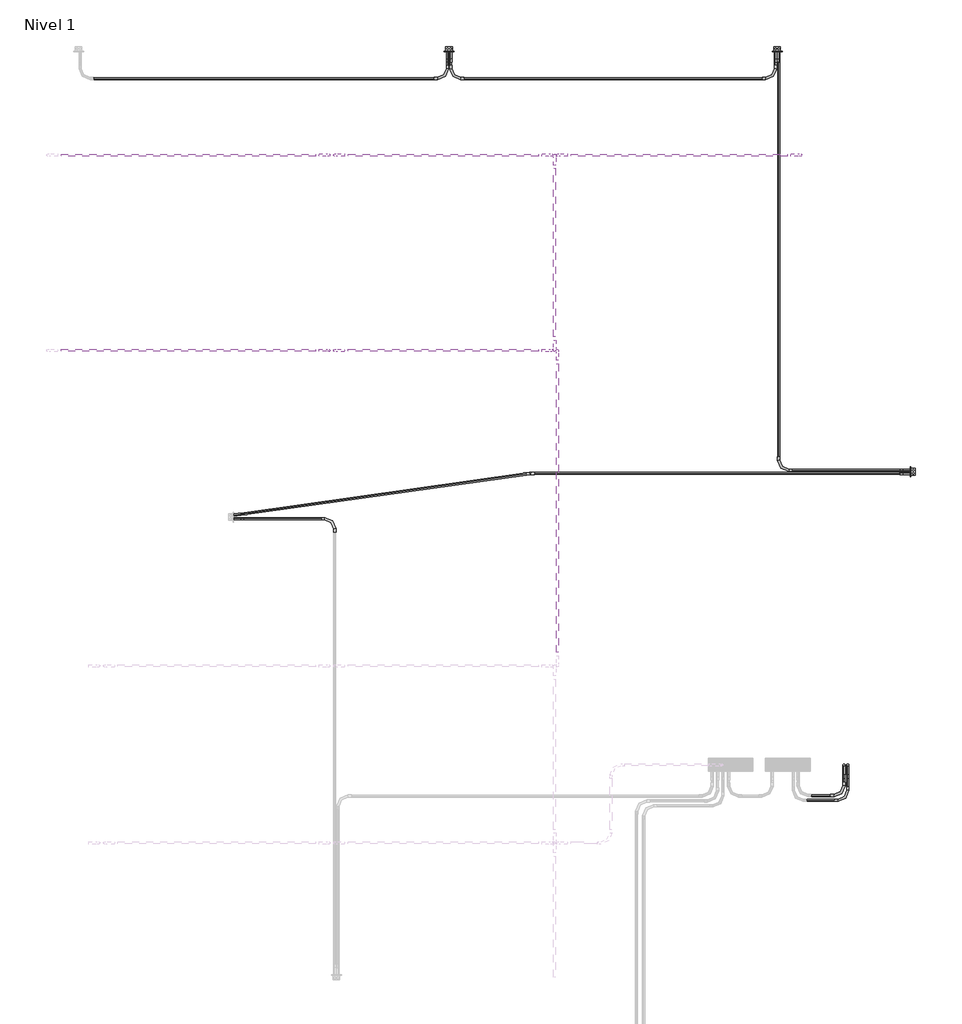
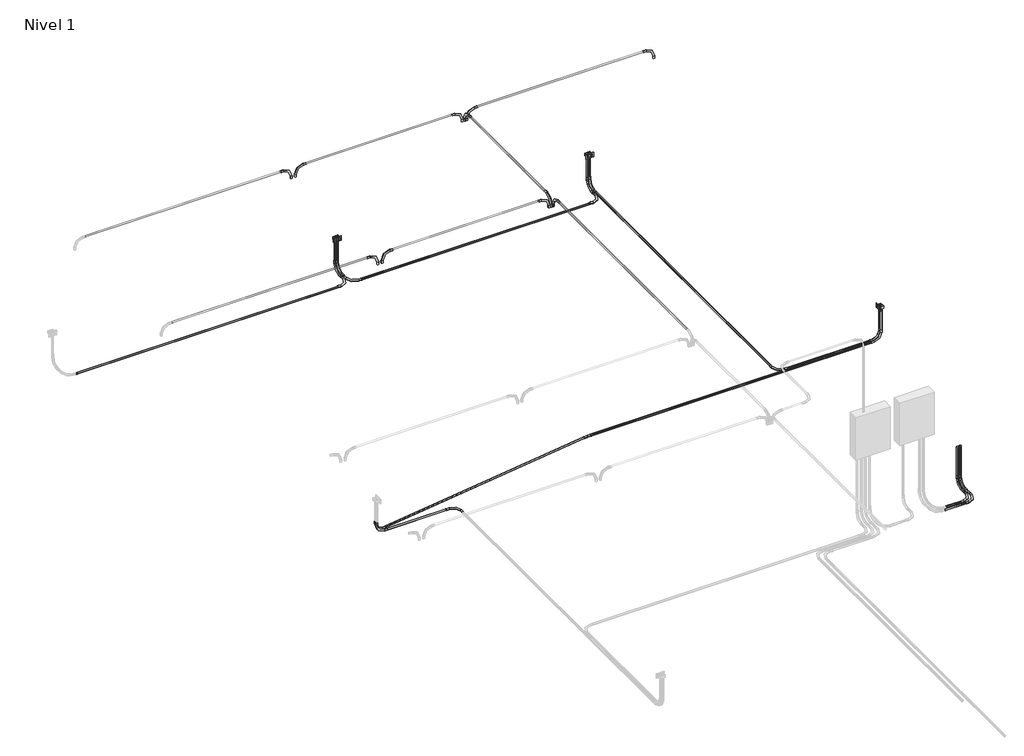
# One storey, part 4 of 4: 29 cable carrier fittings, 29 cable carrier segments, 3 proxies.
"""IFC4 building model written with IfcOpenShell, lengths in millimetres."""

from ifc_helpers import new_model, si_unit, point, frame, frame_2d, origin, place, context, project, spatial, circle_curve, trimmed, segment, composite_curve, outline, extrude, transform, mapped, element, save
from components import gfci_180f1b41, m_codo_de_tubo_extremo_liso_pvc_9da73e12, m_codo_de_tubo_extremo_liso_pvc_3057f877, m_codo_de_tubo_extremo_liso_pvc_102f0f41

model = new_model("IFC4")

# Units and contexts
model_context = context("Model", 3, world=origin())
ifc_project = project(units=[si_unit("LENGTHUNIT", "METRE", prefix="MILLI")], contexts=[model_context])

# Site, building, storey
site = spatial("IfcSite", under=ifc_project)
building = spatial("IfcBuilding", under=site)
storey = spatial("IfcBuildingStorey", under=building, Name="Nivel 1", Elevation=0.0)

# Proxies
placement = place(None, origin())
gfci_shape = gfci_180f1b41(model_context)
element("IfcBuildingElementProxy", 1, Name="Tomacorriente doble 220V : GFCI", ObjectType="Tomacorriente doble 220V : GFCI", at=placement, inside=storey, context=model_context, shape_type="MappedRepresentation", body=[
    mapped(gfci_shape, transform((3917.8396222, 17515.0, 400.0), x_axis=(0.0, 0.0, 1.0), y_axis=(-1.0, 0.0, 0.0), z_axis=(0.0, -1.0, 0.0))),
])
element("IfcBuildingElementProxy", 2, Name="Tomacorriente doble 220V : GFCI", ObjectType="Tomacorriente doble 220V : GFCI", at=placement, inside=storey, context=model_context, shape_type="MappedRepresentation", body=[
    mapped(gfci_shape, transform((7647.8998318, 17515.0, 400.0), x_axis=(0.0, 0.0, 1.0), y_axis=(-1.0, 0.0, 0.0), z_axis=(0.0, -1.0, 0.0))),
])
element("IfcBuildingElementProxy", 3, Name="Tomacorriente doble 220V : GFCI", ObjectType="Tomacorriente doble 220V : GFCI", at=placement, inside=storey, context=model_context, shape_type="MappedRepresentation", body=[
    mapped(gfci_shape, transform((9165.0, 12735.9281634, 400.0), x_axis=(0.0, 0.0, 1.0), y_axis=(0.0, 1.0, 0.0), z_axis=(-1.0, 0.0, 0.0))),
])

# Cable carrier fittings
m_codo_de_tubo_extremo_liso_pvc_shape = m_codo_de_tubo_extremo_liso_pvc_9da73e12(model_context)
element("IfcCableCarrierFitting", 4, ObjectType="M_Codo de tubo - Extremo liso - PVC : CODO POTENCIA", at=placement, inside=storey, context=model_context, shape_type="MappedRepresentation", body=[
    mapped(m_codo_de_tubo_extremo_liso_pvc_shape, transform((3935.8714421, 17544.6371118, -99.99), x_axis=(0.0, 0.0, -1.0), y_axis=(0.0, -1.0, 0.0), z_axis=(-1.0, 0.0, 0.0))),
])
element("IfcCableCarrierFitting", 5, ObjectType="M_Codo de tubo - Extremo liso - PVC : CODO POTENCIA", at=placement, inside=storey, context=model_context, shape_type="MappedRepresentation", body=[
    mapped(m_codo_de_tubo_extremo_liso_pvc_shape, transform((3899.8078024, 17544.6371118, -99.99), x_axis=(0.0, 0.0, -1.0), y_axis=(0.0, -1.0, 0.0), z_axis=(-1.0, 0.0, 0.0))),
])
element("IfcCableCarrierFitting", 6, ObjectType="M_Codo de tubo - Extremo liso - PVC : CODO POTENCIA", at=placement, inside=storey, context=model_context, shape_type="MappedRepresentation", body=[
    mapped(m_codo_de_tubo_extremo_liso_pvc_shape, transform((7629.8680119, 17544.6371118, -99.99), x_axis=(0.0, 0.0, -1.0), y_axis=(0.0, -1.0, 0.0), z_axis=(-1.0, 0.0, 0.0))),
])
element("IfcCableCarrierFitting", 7, ObjectType="M_Codo de tubo - Extremo liso - PVC : CODO POTENCIA", at=placement, inside=storey, context=model_context, shape_type="MappedRepresentation", body=[
    mapped(m_codo_de_tubo_extremo_liso_pvc_shape, transform((3899.8078024, 17204.6371118, -99.99), x_axis=(1.0, 0.0, 0.0), y_axis=(0.0, 1.0, 0.0), z_axis=(0.0, 0.0, 1.0))),
])
element("IfcCableCarrierFitting", 8, ObjectType="M_Codo de tubo - Extremo liso - PVC : CODO POTENCIA", at=placement, inside=storey, context=model_context, shape_type="MappedRepresentation", body=[
    mapped(m_codo_de_tubo_extremo_liso_pvc_shape, transform((7629.8680119, 17204.6371118, -99.99), x_axis=(1.0, 0.0, 0.0), y_axis=(0.0, 1.0, 0.0), z_axis=(0.0, 0.0, 1.0))),
])
element("IfcCableCarrierFitting", 9, ObjectType="M_Codo de tubo - Extremo liso - PVC : CODO POTENCIA", at=placement, inside=storey, context=model_context, shape_type="MappedRepresentation", body=[
    mapped(m_codo_de_tubo_extremo_liso_pvc_shape, transform((3935.8714421, 17204.6371118, -99.99), x_axis=(0.0, -1.0, 0.0), y_axis=(1.0, 0.0, 0.0), z_axis=(0.0, 0.0, 1.0))),
])
element("IfcCableCarrierFitting", 10, ObjectType="M_Codo de tubo - Extremo liso - PVC : CODO POTENCIA", at=placement, inside=storey, context=model_context, shape_type="MappedRepresentation", body=[
    mapped(m_codo_de_tubo_extremo_liso_pvc_shape, transform((9194.6371118, 12753.9599833, -99.99), x_axis=(0.0, 0.0, -1.0), y_axis=(-1.0, 0.0, 0.0), z_axis=(0.0, 1.0, 0.0))),
])
element("IfcCableCarrierFitting", 11, ObjectType="M_Codo de tubo - Extremo liso - PVC : CODO POTENCIA", at=placement, inside=storey, context=model_context, shape_type="MappedRepresentation", body=[
    mapped(m_codo_de_tubo_extremo_liso_pvc_shape, transform((9194.6371118, 12717.8963436, -99.99), x_axis=(0.0, 0.0, -1.0), y_axis=(-1.0, 0.0, 0.0), z_axis=(0.0, 1.0, 0.0))),
])
element("IfcCableCarrierFitting", 12, ObjectType="M_Codo de tubo - Extremo liso - PVC : CODO POTENCIA", at=placement, inside=storey, context=model_context, shape_type="MappedRepresentation", body=[
    mapped(m_codo_de_tubo_extremo_liso_pvc_shape, transform((7665.9316516, 12753.9599833, -99.99), x_axis=(0.0, -1.0, 0.0), y_axis=(1.0, 0.0, 0.0), z_axis=(0.0, 0.0, 1.0))),
])
element("IfcCableCarrierFitting", 13, ObjectType="M_Codo de tubo - Extremo liso - PVC : CODO POTENCIA", at=placement, inside=storey, context=model_context, shape_type="MappedRepresentation", body=[
    mapped(m_codo_de_tubo_extremo_liso_pvc_shape, transform((7665.9316516, 17544.6371118, -99.99), x_axis=(0.0, 0.0, -1.0), y_axis=(0.0, -1.0, 0.0), z_axis=(-1.0, 0.0, 0.0))),
])
element("IfcCableCarrierFitting", 14, ObjectType="M_Codo de tubo - Extremo liso - PVC : CODO POTENCIA", at=placement, inside=storey, context=model_context, shape_type="MappedRepresentation", body=[
    mapped(m_codo_de_tubo_extremo_liso_pvc_shape, transform((1435.3628882, 12202.9611145, -99.99), x_axis=(0.0, 0.0, -1.0), y_axis=(1.0, 0.0, 0.0), z_axis=(0.0, -1.0, 0.0))),
])
element("IfcCableCarrierFitting", 15, ObjectType="M_Codo de tubo - Extremo liso - PVC : CODO POTENCIA", at=placement, inside=storey, context=model_context, shape_type="MappedRepresentation", body=[
    mapped(m_codo_de_tubo_extremo_liso_pvc_shape, transform((2617.9544069, 12202.9611145, -99.99), x_axis=(0.0, 1.0, 0.0), y_axis=(-1.0, 0.0, 0.0), z_axis=(0.0, 0.0, 1.0))),
])
element("IfcCableCarrierFitting", 16, ObjectType="M_Codo de tubo - Extremo liso - PVC : CODO POTENCIA", at=placement, inside=storey, context=model_context, shape_type="MappedRepresentation", body=[
    mapped(m_codo_de_tubo_extremo_liso_pvc_shape, transform((1435.3628882, 12239.0247541, -99.99), x_axis=(0.0, 0.0, -1.0), y_axis=(0.9902680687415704, 0.13917310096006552, 0.0), z_axis=(0.13917310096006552, -0.9902680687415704, 0.0))),
])
element("IfcCableCarrierFitting", 17, ObjectType="M_Codo de tubo - Extremo liso - PVC : CODO POTENCIA", at=placement, inside=storey, context=model_context, shape_type="MappedRepresentation", body=[
    mapped(m_codo_de_tubo_extremo_liso_pvc_shape, transform((8406.8510983, 9055.836249, -99.99), x_axis=(1.0, 0.0, 0.0), y_axis=(0.0, 1.0, 0.0), z_axis=(0.0, 0.0, 1.0))),
])
element("IfcCableCarrierFitting", 18, ObjectType="M_Codo de tubo - Extremo liso - PVC : CODO POTENCIA", at=placement, inside=storey, context=model_context, shape_type="MappedRepresentation", body=[
    mapped(m_codo_de_tubo_extremo_liso_pvc_shape, transform((8406.8510983, 9405.836249, -99.99), x_axis=(0.0, 1.0, 0.0), y_axis=(0.0, 0.0, 1.0), z_axis=(1.0, 0.0, 0.0))),
])
element("IfcCableCarrierFitting", 19, ObjectType="M_Codo de tubo - Extremo liso - PVC : CODO POTENCIA", at=placement, inside=storey, context=model_context, shape_type="MappedRepresentation", body=[
    mapped(m_codo_de_tubo_extremo_liso_pvc_shape, transform((8451.8510983, 9003.336249, -99.99), x_axis=(1.0, 0.0, 0.0), y_axis=(0.0, 1.0, 0.0), z_axis=(0.0, 0.0, 1.0))),
])
element("IfcCableCarrierFitting", 20, ObjectType="M_Codo de tubo - Extremo liso - PVC : CODO POTENCIA", at=placement, inside=storey, context=model_context, shape_type="MappedRepresentation", body=[
    mapped(m_codo_de_tubo_extremo_liso_pvc_shape, transform((8451.8510983, 9405.836249, -99.99), x_axis=(0.0, 1.0, 0.0), y_axis=(0.0, 0.0, 1.0), z_axis=(1.0, 0.0, 0.0))),
])
m_codo_de_tubo_extremo_liso_pvc_2_shape = m_codo_de_tubo_extremo_liso_pvc_3057f877(model_context)
element("IfcCableCarrierFitting", 21, ObjectType="M_Codo de tubo - Extremo liso - PVC : CODO POTENCIA", at=placement, inside=storey, context=model_context, shape_type="MappedRepresentation", body=[
    mapped(m_codo_de_tubo_extremo_liso_pvc_2_shape, transform((4842.7112972, 12717.8963436, -99.99), x_axis=(-1.0, 0.0, 0.0), y_axis=(0.0, -1.0, 0.0), z_axis=(0.0, 0.0, 1.0))),
])
element("IfcCableCarrierFitting", 22, ObjectType="M_Codo de tubo - Extremo liso - PVC : CODO ILUMINACION", at=placement, inside=storey, context=model_context, shape_type="MappedRepresentation", body=[
    mapped(m_codo_de_tubo_extremo_liso_pvc_shape, transform((2616.5510631, 16335.5818559, 2700.0), x_axis=(0.0, 0.0, 1.0), y_axis=(1.0, 0.0, 0.0), z_axis=(0.0, 1.0, 0.0))),
])
element("IfcCableCarrierFitting", 23, ObjectType="M_Codo de tubo - Extremo liso - PVC : CODO ILUMINACION", at=placement, inside=storey, context=model_context, shape_type="MappedRepresentation", body=[
    mapped(m_codo_de_tubo_extremo_liso_pvc_shape, transform((5149.9573804, 16335.5818559, 2700.0), x_axis=(0.0, 0.0, 1.0), y_axis=(1.0, 0.0, 0.0), z_axis=(0.0, 1.0, 0.0))),
])
element("IfcCableCarrierFitting", 24, ObjectType="M_Codo de tubo - Extremo liso - PVC : CODO ILUMINACION", at=placement, inside=storey, context=model_context, shape_type="MappedRepresentation", body=[
    mapped(m_codo_de_tubo_extremo_liso_pvc_shape, transform((2616.5510631, 14115.9664101, 2700.0), x_axis=(0.0, 0.0, 1.0), y_axis=(1.0, 0.0, 0.0), z_axis=(0.0, 1.0, 0.0))),
])
element("IfcCableCarrierFitting", 25, ObjectType="M_Codo de tubo - Extremo liso - PVC : CODO ILUMINACION", at=placement, inside=storey, context=model_context, shape_type="MappedRepresentation", body=[
    mapped(m_codo_de_tubo_extremo_liso_pvc_shape, transform((2553.0655953, 16335.5818559, 2700.0), x_axis=(0.0, 0.0, 1.0), y_axis=(-1.0, 0.0, 0.0), z_axis=(0.0, -1.0, 0.0))),
])
element("IfcCableCarrierFitting", 26, ObjectType="M_Codo de tubo - Extremo liso - PVC : CODO ILUMINACION", at=placement, inside=storey, context=model_context, shape_type="MappedRepresentation", body=[
    mapped(m_codo_de_tubo_extremo_liso_pvc_shape, transform((5118.2146465, 16335.7215474, 2700.0), x_axis=(0.0, 0.0, 1.0), y_axis=(0.0, -1.0, 0.0), z_axis=(1.0, 0.0, 0.0))),
])
element("IfcCableCarrierFitting", 27, ObjectType="M_Codo de tubo - Extremo liso - PVC : CODO ILUMINACION", at=placement, inside=storey, context=model_context, shape_type="MappedRepresentation", body=[
    mapped(m_codo_de_tubo_extremo_liso_pvc_shape, transform((5086.4719126, 14115.9664101, 2700.0), x_axis=(0.0, 0.0, 1.0), y_axis=(-1.0, 0.0, 0.0), z_axis=(0.0, -1.0, 0.0))),
])
element("IfcCableCarrierFitting", 28, ObjectType="M_Codo de tubo - Extremo liso - PVC : CODO ILUMINACION", at=placement, inside=storey, context=model_context, shape_type="MappedRepresentation", body=[
    mapped(m_codo_de_tubo_extremo_liso_pvc_shape, transform((5118.2146465, 14116.1061017, 2700.0), x_axis=(0.0, 0.0, 1.0), y_axis=(0.0, 1.0, 0.0), z_axis=(-1.0, 0.0, 0.0))),
])
element("IfcCableCarrierFitting", 29, ObjectType="M_Codo de tubo - Extremo liso - PVC : CODO ILUMINACION", at=placement, inside=storey, context=model_context, shape_type="MappedRepresentation", body=[
    mapped(m_codo_de_tubo_extremo_liso_pvc_shape, transform((5149.1088919, 14115.3973047, 2700.0), x_axis=(0.0, 0.0, 1.0), y_axis=(0.0, -1.0, 0.0), z_axis=(1.0, 0.0, 0.0))),
])
m_codo_de_tubo_extremo_liso_pvc_3_shape = m_codo_de_tubo_extremo_liso_pvc_102f0f41(model_context)
element("IfcCableCarrierFitting", 30, ObjectType="M_Codo de tubo - Extremo liso - PVC : CODO ILUMINACION", at=placement, inside=storey, context=model_context, shape_type="MappedRepresentation", body=[
    mapped(m_codo_de_tubo_extremo_liso_pvc_3_shape, transform((5086.4719126, 16335.5818559, 2700.0), x_axis=(0.0, 0.0, 1.0), y_axis=(1.0, 0.0, 0.0), z_axis=(0.0, 1.0, 0.0))),
])
element("IfcCableCarrierFitting", 31, ObjectType="M_Codo de tubo - Extremo liso - PVC : CODO ILUMINACION", at=placement, inside=storey, context=model_context, shape_type="MappedRepresentation", body=[
    mapped(m_codo_de_tubo_extremo_liso_pvc_3_shape, transform((7917.926032, 16335.5818559, 2700.0), x_axis=(0.0, 0.0, 1.0), y_axis=(1.0, 0.0, 0.0), z_axis=(0.0, 1.0, 0.0))),
])
element("IfcCableCarrierFitting", 32, ObjectType="M_Codo de tubo - Extremo liso - PVC : CODO ILUMINACION", at=placement, inside=storey, context=model_context, shape_type="MappedRepresentation", body=[
    mapped(m_codo_de_tubo_extremo_liso_pvc_3_shape, transform((2553.0655953, 14115.9664101, 2700.0), x_axis=(0.0, 0.0, 1.0), y_axis=(1.0, 0.0, 0.0), z_axis=(0.0, 1.0, 0.0))),
])

# Cable carrier segments
element("IfcCableCarrierSegment", 33, ObjectType="PVC-SEL, POTENCIA", at=placement, inside=storey, context=model_context, shape_type="SweptSolid", body=[
    extrude(outline(composite_curve([segment(trimmed(circle_curve(frame_2d((-99.99, 3935.8714421)), 11.71), [point((-99.99, 3924.1614421))], [point((-111.7, 3935.8714421))], False, "CARTESIAN"), True, "CONTINUOUS"), segment(trimmed(circle_curve(frame_2d((-99.99, 3935.8714421)), 11.71), [point((-111.7, 3935.8714421))], [point((-99.99, 3947.5814421))], False, "CARTESIAN"), True, "CONTINUOUS"), segment(trimmed(circle_curve(frame_2d((-99.99, 3935.8714421)), 11.71), [point((-99.99, 3947.5814421))], [point((-88.28, 3935.8714421))], False, "CARTESIAN"), True, "CONTINUOUS"), segment(trimmed(circle_curve(frame_2d((-99.99, 3935.8714421)), 11.71), [point((-88.28, 3935.8714421))], [point((-99.99, 3924.1614421))], False, "CARTESIAN"), True, "CONTINUOUS")], self_intersect=False)), frame((0.0, 17357.0371118, 0.0), z_axis=(0.0, 1.0, 0.0), x_axis=(0.0, 0.0, 1.0)), (0.0, 0.0, 1.0), 35.2),
])
element("IfcCableCarrierSegment", 34, ObjectType="PVC-SEL, POTENCIA", at=placement, inside=storey, context=model_context, shape_type="SweptSolid", body=[
    extrude(outline(composite_curve([segment(trimmed(circle_curve(frame_2d((3935.8714421, 17544.6371118)), 11.71), [point((3947.5814421, 17544.6371118))], [point((3935.8714421, 17532.9271118))], False, "CARTESIAN"), True, "CONTINUOUS"), segment(trimmed(circle_curve(frame_2d((3935.8714421, 17544.6371118)), 11.71), [point((3935.8714421, 17532.9271118))], [point((3924.1614421, 17544.6371118))], False, "CARTESIAN"), True, "CONTINUOUS"), segment(trimmed(circle_curve(frame_2d((3935.8714421, 17544.6371118)), 11.71), [point((3924.1614421, 17544.6371118))], [point((3935.8714421, 17556.3471118))], False, "CARTESIAN"), True, "CONTINUOUS"), segment(trimmed(circle_curve(frame_2d((3935.8714421, 17544.6371118)), 11.71), [point((3935.8714421, 17556.3471118))], [point((3947.5814421, 17544.6371118))], False, "CARTESIAN"), True, "CONTINUOUS")], self_intersect=False)), frame((0.0, 0.0, 52.41), z_axis=(0.0, 0.0, 1.0), x_axis=(1.0, 0.0, 0.0)), (0.0, 0.0, 1.0), 327.2920537),
])
element("IfcCableCarrierSegment", 35, ObjectType="PVC-SEL, POTENCIA", at=placement, inside=storey, context=model_context, shape_type="SweptSolid", body=[
    extrude(outline(composite_curve([segment(trimmed(circle_curve(frame_2d((-99.99, 3899.8078024)), 11.71), [point((-99.99, 3888.0978024))], [point((-111.7, 3899.8078024))], False, "CARTESIAN"), True, "CONTINUOUS"), segment(trimmed(circle_curve(frame_2d((-99.99, 3899.8078024)), 11.71), [point((-111.7, 3899.8078024))], [point((-99.99, 3911.5178024))], False, "CARTESIAN"), True, "CONTINUOUS"), segment(trimmed(circle_curve(frame_2d((-99.99, 3899.8078024)), 11.71), [point((-99.99, 3911.5178024))], [point((-88.28, 3899.8078024))], False, "CARTESIAN"), True, "CONTINUOUS"), segment(trimmed(circle_curve(frame_2d((-99.99, 3899.8078024)), 11.71), [point((-88.28, 3899.8078024))], [point((-99.99, 3888.0978024))], False, "CARTESIAN"), True, "CONTINUOUS")], self_intersect=False)), frame((0.0, 17357.0371118, 0.0), z_axis=(0.0, 1.0, 0.0), x_axis=(0.0, 0.0, 1.0)), (0.0, 0.0, 1.0), 35.2),
])
element("IfcCableCarrierSegment", 36, ObjectType="PVC-SEL, POTENCIA", at=placement, inside=storey, context=model_context, shape_type="SweptSolid", body=[
    extrude(outline(composite_curve([segment(trimmed(circle_curve(frame_2d((3899.8078024, 17544.6371118)), 11.71), [point((3911.5178024, 17544.6371118))], [point((3899.8078024, 17532.9271118))], False, "CARTESIAN"), True, "CONTINUOUS"), segment(trimmed(circle_curve(frame_2d((3899.8078024, 17544.6371118)), 11.71), [point((3899.8078024, 17532.9271118))], [point((3888.0978024, 17544.6371118))], False, "CARTESIAN"), True, "CONTINUOUS"), segment(trimmed(circle_curve(frame_2d((3899.8078024, 17544.6371118)), 11.71), [point((3888.0978024, 17544.6371118))], [point((3899.8078024, 17556.3471118))], False, "CARTESIAN"), True, "CONTINUOUS"), segment(trimmed(circle_curve(frame_2d((3899.8078024, 17544.6371118)), 11.71), [point((3899.8078024, 17556.3471118))], [point((3911.5178024, 17544.6371118))], False, "CARTESIAN"), True, "CONTINUOUS")], self_intersect=False)), frame((0.0, 0.0, 52.41), z_axis=(0.0, 0.0, 1.0), x_axis=(1.0, 0.0, 0.0)), (0.0, 0.0, 1.0), 327.2920537),
])
element("IfcCableCarrierSegment", 37, ObjectType="PVC-SEL, POTENCIA", at=placement, inside=storey, context=model_context, shape_type="SweptSolid", body=[
    extrude(outline(composite_curve([segment(trimmed(circle_curve(frame_2d((-99.99, 7665.9316516)), 11.71), [point((-99.99, 7677.6416516))], [point((-88.28, 7665.9316516))], False, "CARTESIAN"), True, "CONTINUOUS"), segment(trimmed(circle_curve(frame_2d((-99.99, 7665.9316516)), 11.71), [point((-88.28, 7665.9316516))], [point((-99.99, 7654.2216516))], False, "CARTESIAN"), True, "CONTINUOUS"), segment(trimmed(circle_curve(frame_2d((-99.99, 7665.9316516)), 11.71), [point((-99.99, 7654.2216516))], [point((-111.7, 7665.9316516))], False, "CARTESIAN"), True, "CONTINUOUS"), segment(trimmed(circle_curve(frame_2d((-99.99, 7665.9316516)), 11.71), [point((-111.7, 7665.9316516))], [point((-99.99, 7677.6416516))], False, "CARTESIAN"), True, "CONTINUOUS")], self_intersect=False)), frame((0.0, 12906.3599833, 0.0), z_axis=(0.0, 1.0, 0.0), x_axis=(0.0, 0.0, 1.0)), (0.0, 0.0, 1.0), 4485.8771285),
])
element("IfcCableCarrierSegment", 38, ObjectType="PVC-SEL, POTENCIA", at=placement, inside=storey, context=model_context, shape_type="SweptSolid", body=[
    extrude(outline(composite_curve([segment(trimmed(circle_curve(frame_2d((7665.9316516, 17544.6371118)), 11.71), [point((7677.6416516, 17544.6371118))], [point((7665.9316516, 17532.9271118))], False, "CARTESIAN"), True, "CONTINUOUS"), segment(trimmed(circle_curve(frame_2d((7665.9316516, 17544.6371118)), 11.71), [point((7665.9316516, 17532.9271118))], [point((7654.2216516, 17544.6371118))], False, "CARTESIAN"), True, "CONTINUOUS"), segment(trimmed(circle_curve(frame_2d((7665.9316516, 17544.6371118)), 11.71), [point((7654.2216516, 17544.6371118))], [point((7665.9316516, 17556.3471118))], False, "CARTESIAN"), True, "CONTINUOUS"), segment(trimmed(circle_curve(frame_2d((7665.9316516, 17544.6371118)), 11.71), [point((7665.9316516, 17556.3471118))], [point((7677.6416516, 17544.6371118))], False, "CARTESIAN"), True, "CONTINUOUS")], self_intersect=False)), frame((0.0, 0.0, 52.41), z_axis=(0.0, 0.0, 1.0), x_axis=(1.0, 0.0, 0.0)), (0.0, 0.0, 1.0), 327.2920537),
])
element("IfcCableCarrierSegment", 39, ObjectType="PVC-SEL, POTENCIA", at=placement, inside=storey, context=model_context, shape_type="SweptSolid", body=[
    extrude(outline(composite_curve([segment(trimmed(circle_curve(frame_2d((-99.99, 7629.8680119)), 11.71), [point((-99.99, 7618.1580119))], [point((-111.7, 7629.8680119))], False, "CARTESIAN"), True, "CONTINUOUS"), segment(trimmed(circle_curve(frame_2d((-99.99, 7629.8680119)), 11.71), [point((-111.7, 7629.8680119))], [point((-99.99, 7641.5780119))], False, "CARTESIAN"), True, "CONTINUOUS"), segment(trimmed(circle_curve(frame_2d((-99.99, 7629.8680119)), 11.71), [point((-99.99, 7641.5780119))], [point((-88.28, 7629.8680119))], False, "CARTESIAN"), True, "CONTINUOUS"), segment(trimmed(circle_curve(frame_2d((-99.99, 7629.8680119)), 11.71), [point((-88.28, 7629.8680119))], [point((-99.99, 7618.1580119))], False, "CARTESIAN"), True, "CONTINUOUS")], self_intersect=False)), frame((0.0, 17357.0371118, 0.0), z_axis=(0.0, 1.0, 0.0), x_axis=(0.0, 0.0, 1.0)), (0.0, 0.0, 1.0), 35.2),
])
element("IfcCableCarrierSegment", 40, ObjectType="PVC-SEL, POTENCIA", at=placement, inside=storey, context=model_context, shape_type="SweptSolid", body=[
    extrude(outline(composite_curve([segment(trimmed(circle_curve(frame_2d((7629.8680119, 17544.6371118)), 11.71), [point((7641.5780119, 17544.6371118))], [point((7629.8680119, 17532.9271118))], False, "CARTESIAN"), True, "CONTINUOUS"), segment(trimmed(circle_curve(frame_2d((7629.8680119, 17544.6371118)), 11.71), [point((7629.8680119, 17532.9271118))], [point((7618.1580119, 17544.6371118))], False, "CARTESIAN"), True, "CONTINUOUS"), segment(trimmed(circle_curve(frame_2d((7629.8680119, 17544.6371118)), 11.71), [point((7618.1580119, 17544.6371118))], [point((7629.8680119, 17556.3471118))], False, "CARTESIAN"), True, "CONTINUOUS"), segment(trimmed(circle_curve(frame_2d((7629.8680119, 17544.6371118)), 11.71), [point((7629.8680119, 17556.3471118))], [point((7641.5780119, 17544.6371118))], False, "CARTESIAN"), True, "CONTINUOUS")], self_intersect=False)), frame((0.0, 0.0, 52.41), z_axis=(0.0, 0.0, 1.0), x_axis=(1.0, 0.0, 0.0)), (0.0, 0.0, 1.0), 327.2920537),
])
element("IfcCableCarrierSegment", 41, ObjectType="PVC-SEL, POTENCIA", at=placement, inside=storey, context=model_context, shape_type="SweptSolid", body=[
    extrude(outline(composite_curve([segment(trimmed(circle_curve(frame_2d((17204.6371118, -99.99)), 11.71), [point((17216.3471118, -99.99))], [point((17204.6371118, -111.7))], False, "CARTESIAN"), True, "CONTINUOUS"), segment(trimmed(circle_curve(frame_2d((17204.6371118, -99.99)), 11.71), [point((17204.6371118, -111.7))], [point((17192.9271118, -99.99))], False, "CARTESIAN"), True, "CONTINUOUS"), segment(trimmed(circle_curve(frame_2d((17204.6371118, -99.99)), 11.71), [point((17192.9271118, -99.99))], [point((17204.6371118, -88.28))], False, "CARTESIAN"), True, "CONTINUOUS"), segment(trimmed(circle_curve(frame_2d((17204.6371118, -99.99)), 11.71), [point((17204.6371118, -88.28))], [point((17216.3471118, -99.99))], False, "CARTESIAN"), True, "CONTINUOUS")], self_intersect=False)), frame((-124.7091178, 0.0, 0.0), z_axis=(1.0, 0.0, 0.0), x_axis=(0.0, 1.0, 0.0)), (0.0, 0.0, 1.0), 3872.1169202),
])
element("IfcCableCarrierSegment", 42, ObjectType="PVC-SEL, POTENCIA", at=placement, inside=storey, context=model_context, shape_type="SweptSolid", body=[
    extrude(outline(composite_curve([segment(trimmed(circle_curve(frame_2d((17204.6371118, -99.99)), 11.71), [point((17216.3471118, -99.99))], [point((17204.6371118, -111.7))], False, "CARTESIAN"), True, "CONTINUOUS"), segment(trimmed(circle_curve(frame_2d((17204.6371118, -99.99)), 11.71), [point((17204.6371118, -111.7))], [point((17192.9271118, -99.99))], False, "CARTESIAN"), True, "CONTINUOUS"), segment(trimmed(circle_curve(frame_2d((17204.6371118, -99.99)), 11.71), [point((17192.9271118, -99.99))], [point((17204.6371118, -88.28))], False, "CARTESIAN"), True, "CONTINUOUS"), segment(trimmed(circle_curve(frame_2d((17204.6371118, -99.99)), 11.71), [point((17204.6371118, -88.28))], [point((17216.3471118, -99.99))], False, "CARTESIAN"), True, "CONTINUOUS")], self_intersect=False)), frame((4088.2714421, 0.0, 0.0), z_axis=(1.0, 0.0, 0.0), x_axis=(0.0, 1.0, 0.0)), (0.0, 0.0, 1.0), 3389.1965699),
])
element("IfcCableCarrierSegment", 43, ObjectType="PVC-SEL, POTENCIA", at=placement, inside=storey, context=model_context, shape_type="SweptSolid", body=[
    extrude(outline(composite_curve([segment(trimmed(circle_curve(frame_2d((12753.9599833, -99.99)), 11.71), [point((12765.6699833, -99.99))], [point((12753.9599833, -111.7))], False, "CARTESIAN"), True, "CONTINUOUS"), segment(trimmed(circle_curve(frame_2d((12753.9599833, -99.99)), 11.71), [point((12753.9599833, -111.7))], [point((12742.2499833, -99.99))], False, "CARTESIAN"), True, "CONTINUOUS"), segment(trimmed(circle_curve(frame_2d((12753.9599833, -99.99)), 11.71), [point((12742.2499833, -99.99))], [point((12753.9599833, -88.28))], False, "CARTESIAN"), True, "CONTINUOUS"), segment(trimmed(circle_curve(frame_2d((12753.9599833, -99.99)), 11.71), [point((12753.9599833, -88.28))], [point((12765.6699833, -99.99))], False, "CARTESIAN"), True, "CONTINUOUS")], self_intersect=False)), frame((7818.3316516, 0.0, 0.0), z_axis=(1.0, 0.0, 0.0), x_axis=(0.0, 1.0, 0.0)), (0.0, 0.0, 1.0), 1223.9054602),
])
element("IfcCableCarrierSegment", 44, ObjectType="PVC-SEL, POTENCIA", at=placement, inside=storey, context=model_context, shape_type="SweptSolid", body=[
    extrude(outline(composite_curve([segment(trimmed(circle_curve(frame_2d((9194.6371118, 12753.9599833)), 11.71), [point((9206.3471118, 12753.9599833))], [point((9194.6371118, 12742.2499833))], False, "CARTESIAN"), True, "CONTINUOUS"), segment(trimmed(circle_curve(frame_2d((9194.6371118, 12753.9599833)), 11.71), [point((9194.6371118, 12742.2499833))], [point((9182.9271118, 12753.9599833))], False, "CARTESIAN"), True, "CONTINUOUS"), segment(trimmed(circle_curve(frame_2d((9194.6371118, 12753.9599833)), 11.71), [point((9182.9271118, 12753.9599833))], [point((9194.6371118, 12765.6699833))], False, "CARTESIAN"), True, "CONTINUOUS"), segment(trimmed(circle_curve(frame_2d((9194.6371118, 12753.9599833)), 11.71), [point((9194.6371118, 12765.6699833))], [point((9206.3471118, 12753.9599833))], False, "CARTESIAN"), True, "CONTINUOUS")], self_intersect=False)), frame((0.0, 0.0, 52.41), z_axis=(0.0, 0.0, 1.0), x_axis=(1.0, 0.0, 0.0)), (0.0, 0.0, 1.0), 327.2920537),
])
element("IfcCableCarrierSegment", 45, ObjectType="PVC-SEL, POTENCIA", at=placement, inside=storey, context=model_context, shape_type="SweptSolid", body=[
    extrude(outline(composite_curve([segment(trimmed(circle_curve(frame_2d((12717.8963436, -99.99)), 11.71), [point((12729.6063436, -99.99))], [point((12717.8963436, -111.7))], False, "CARTESIAN"), True, "CONTINUOUS"), segment(trimmed(circle_curve(frame_2d((12717.8963436, -99.99)), 11.71), [point((12717.8963436, -111.7))], [point((12706.1863436, -99.99))], False, "CARTESIAN"), True, "CONTINUOUS"), segment(trimmed(circle_curve(frame_2d((12717.8963436, -99.99)), 11.71), [point((12706.1863436, -99.99))], [point((12717.8963436, -88.28))], False, "CARTESIAN"), True, "CONTINUOUS"), segment(trimmed(circle_curve(frame_2d((12717.8963436, -99.99)), 11.71), [point((12717.8963436, -88.28))], [point((12729.6063436, -99.99))], False, "CARTESIAN"), True, "CONTINUOUS")], self_intersect=False)), frame((4888.8039318, 0.0, 0.0), z_axis=(1.0, 0.0, 0.0), x_axis=(0.0, 1.0, 0.0)), (0.0, 0.0, 1.0), 4153.4331799),
])
element("IfcCableCarrierSegment", 46, ObjectType="PVC-SEL, POTENCIA", at=placement, inside=storey, context=model_context, shape_type="SweptSolid", body=[
    extrude(outline(composite_curve([segment(trimmed(circle_curve(frame_2d((9194.6371118, 12717.8963436)), 11.71), [point((9206.3471118, 12717.8963436))], [point((9194.6371118, 12706.1863436))], False, "CARTESIAN"), True, "CONTINUOUS"), segment(trimmed(circle_curve(frame_2d((9194.6371118, 12717.8963436)), 11.71), [point((9194.6371118, 12706.1863436))], [point((9182.9271118, 12717.8963436))], False, "CARTESIAN"), True, "CONTINUOUS"), segment(trimmed(circle_curve(frame_2d((9194.6371118, 12717.8963436)), 11.71), [point((9182.9271118, 12717.8963436))], [point((9194.6371118, 12729.6063436))], False, "CARTESIAN"), True, "CONTINUOUS"), segment(trimmed(circle_curve(frame_2d((9194.6371118, 12717.8963436)), 11.71), [point((9194.6371118, 12729.6063436))], [point((9206.3471118, 12717.8963436))], False, "CARTESIAN"), True, "CONTINUOUS")], self_intersect=False)), frame((0.0, 0.0, 52.41), z_axis=(0.0, 0.0, 1.0), x_axis=(1.0, 0.0, 0.0)), (0.0, 0.0, 1.0), 327.2920537),
])
element("IfcCableCarrierSegment", 47, ObjectType="PVC-SEL, POTENCIA", at=placement, inside=storey, context=model_context, shape_type="SweptSolid", body=[
    extrude(outline(composite_curve([segment(trimmed(circle_curve(frame_2d((0.0, -11.71)), 11.71), [point((-11.71, -11.71))], [point((0.0, 0.0))], False, "CARTESIAN"), True, "CONTINUOUS"), segment(trimmed(circle_curve(frame_2d((0.0, -11.71)), 11.71), [point((0.0, 0.0))], [point((11.71, -11.71))], False, "CARTESIAN"), True, "CONTINUOUS"), segment(trimmed(circle_curve(frame_2d((0.0, -11.71)), 11.71), [point((11.71, -11.71))], [point((0.0, -23.42))], False, "CARTESIAN"), True, "CONTINUOUS"), segment(trimmed(circle_curve(frame_2d((0.0, -11.71)), 11.71), [point((0.0, -23.42))], [point((-11.71, -11.71))], False, "CARTESIAN"), True, "CONTINUOUS")], self_intersect=False)), frame((1586.2797419, 12260.2347347, -111.7), z_axis=(0.9902680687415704, 0.13917310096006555, 0.0), x_axis=(0.13917310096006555, -0.9902680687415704, 0.0)), (0.0, 0.0, 1.0), 3242.341738),
])
element("IfcCableCarrierSegment", 48, ObjectType="PVC-SEL, POTENCIA", at=placement, inside=storey, context=model_context, shape_type="SweptSolid", body=[
    extrude(outline(composite_curve([segment(trimmed(circle_curve(frame_2d((12202.9611145, -99.99)), 11.71), [point((12191.2511145, -99.99))], [point((12202.9611145, -88.28))], False, "CARTESIAN"), True, "CONTINUOUS"), segment(trimmed(circle_curve(frame_2d((12202.9611145, -99.99)), 11.71), [point((12202.9611145, -88.28))], [point((12214.6711145, -99.99))], False, "CARTESIAN"), True, "CONTINUOUS"), segment(trimmed(circle_curve(frame_2d((12202.9611145, -99.99)), 11.71), [point((12214.6711145, -99.99))], [point((12202.9611145, -111.7))], False, "CARTESIAN"), True, "CONTINUOUS"), segment(trimmed(circle_curve(frame_2d((12202.9611145, -99.99)), 11.71), [point((12202.9611145, -111.7))], [point((12191.2511145, -99.99))], False, "CARTESIAN"), True, "CONTINUOUS")], self_intersect=False)), frame((1587.7628882, 0.0, 0.0), z_axis=(1.0, 0.0, 0.0), x_axis=(0.0, 1.0, 0.0)), (0.0, 0.0, 1.0), 877.7915187),
])
element("IfcCableCarrierSegment", 49, ObjectType="PVC-SEL, POTENCIA", at=placement, inside=storey, context=model_context, shape_type="SweptSolid", body=[
    extrude(outline(composite_curve([segment(trimmed(circle_curve(frame_2d((9055.836249, -99.99)), 11.71), [point((9044.126249, -99.99))], [point((9055.836249, -88.28))], False, "CARTESIAN"), True, "CONTINUOUS"), segment(trimmed(circle_curve(frame_2d((9055.836249, -99.99)), 11.71), [point((9055.836249, -88.28))], [point((9067.546249, -99.99))], False, "CARTESIAN"), True, "CONTINUOUS"), segment(trimmed(circle_curve(frame_2d((9055.836249, -99.99)), 11.71), [point((9067.546249, -99.99))], [point((9055.836249, -111.7))], False, "CARTESIAN"), True, "CONTINUOUS"), segment(trimmed(circle_curve(frame_2d((9055.836249, -99.99)), 11.71), [point((9055.836249, -111.7))], [point((9044.126249, -99.99))], False, "CARTESIAN"), True, "CONTINUOUS")], self_intersect=False)), frame((8039.2510983, 0.0, 0.0), z_axis=(1.0, 0.0, 0.0), x_axis=(0.0, 1.0, 0.0)), (0.0, 0.0, 1.0), 215.2),
])
element("IfcCableCarrierSegment", 50, ObjectType="PVC-SEL, POTENCIA", at=placement, inside=storey, context=model_context, shape_type="SweptSolid", body=[
    extrude(outline(composite_curve([segment(trimmed(circle_curve(frame_2d((-99.99, 8406.8510983)), 11.71), [point((-99.99, 8418.5610983))], [point((-88.28, 8406.8510983))], False, "CARTESIAN"), True, "CONTINUOUS"), segment(trimmed(circle_curve(frame_2d((-99.99, 8406.8510983)), 11.71), [point((-88.28, 8406.8510983))], [point((-99.99, 8395.1410983))], False, "CARTESIAN"), True, "CONTINUOUS"), segment(trimmed(circle_curve(frame_2d((-99.99, 8406.8510983)), 11.71), [point((-99.99, 8395.1410983))], [point((-111.7, 8406.8510983))], False, "CARTESIAN"), True, "CONTINUOUS"), segment(trimmed(circle_curve(frame_2d((-99.99, 8406.8510983)), 11.71), [point((-111.7, 8406.8510983))], [point((-99.99, 8418.5610983))], False, "CARTESIAN"), True, "CONTINUOUS")], self_intersect=False)), frame((0.0, 9208.236249, 0.0), z_axis=(0.0, 1.0, 0.0), x_axis=(0.0, 0.0, 1.0)), (0.0, 0.0, 1.0), 45.2),
])
element("IfcCableCarrierSegment", 51, ObjectType="PVC-SEL, POTENCIA", at=placement, inside=storey, context=model_context, shape_type="SweptSolid", body=[
    extrude(outline(composite_curve([segment(trimmed(circle_curve(frame_2d((8406.8510983, 9405.836249)), 11.71), [point((8395.1410983, 9405.836249))], [point((8406.8510983, 9417.546249))], False, "CARTESIAN"), True, "CONTINUOUS"), segment(trimmed(circle_curve(frame_2d((8406.8510983, 9405.836249)), 11.71), [point((8406.8510983, 9417.546249))], [point((8418.5610983, 9405.836249))], False, "CARTESIAN"), True, "CONTINUOUS"), segment(trimmed(circle_curve(frame_2d((8406.8510983, 9405.836249)), 11.71), [point((8418.5610983, 9405.836249))], [point((8406.8510983, 9394.126249))], False, "CARTESIAN"), True, "CONTINUOUS"), segment(trimmed(circle_curve(frame_2d((8406.8510983, 9405.836249)), 11.71), [point((8406.8510983, 9394.126249))], [point((8395.1410983, 9405.836249))], False, "CARTESIAN"), True, "CONTINUOUS")], self_intersect=False)), frame((0.0, 0.0, 52.41), z_axis=(0.0, 0.0, 1.0), x_axis=(1.0, 0.0, 0.0)), (0.0, 0.0, 1.0), 447.59),
])
element("IfcCableCarrierSegment", 52, ObjectType="PVC-SEL, POTENCIA", at=placement, inside=storey, context=model_context, shape_type="SweptSolid", body=[
    extrude(outline(composite_curve([segment(trimmed(circle_curve(frame_2d((-99.99, 8451.8510983)), 11.71), [point((-99.99, 8463.5610983))], [point((-88.28, 8451.8510983))], False, "CARTESIAN"), True, "CONTINUOUS"), segment(trimmed(circle_curve(frame_2d((-99.99, 8451.8510983)), 11.71), [point((-88.28, 8451.8510983))], [point((-99.99, 8440.1410983))], False, "CARTESIAN"), True, "CONTINUOUS"), segment(trimmed(circle_curve(frame_2d((-99.99, 8451.8510983)), 11.71), [point((-99.99, 8440.1410983))], [point((-111.7, 8451.8510983))], False, "CARTESIAN"), True, "CONTINUOUS"), segment(trimmed(circle_curve(frame_2d((-99.99, 8451.8510983)), 11.71), [point((-111.7, 8451.8510983))], [point((-99.99, 8463.5610983))], False, "CARTESIAN"), True, "CONTINUOUS")], self_intersect=False)), frame((0.0, 9155.736249, 0.0), z_axis=(0.0, 1.0, 0.0), x_axis=(0.0, 0.0, 1.0)), (0.0, 0.0, 1.0), 97.7),
])
element("IfcCableCarrierSegment", 53, ObjectType="PVC-SEL, POTENCIA", at=placement, inside=storey, context=model_context, shape_type="SweptSolid", body=[
    extrude(outline(composite_curve([segment(trimmed(circle_curve(frame_2d((8451.8510983, 9405.836249)), 11.71), [point((8440.1410983, 9405.836249))], [point((8451.8510983, 9417.546249))], False, "CARTESIAN"), True, "CONTINUOUS"), segment(trimmed(circle_curve(frame_2d((8451.8510983, 9405.836249)), 11.71), [point((8451.8510983, 9417.546249))], [point((8463.5610983, 9405.836249))], False, "CARTESIAN"), True, "CONTINUOUS"), segment(trimmed(circle_curve(frame_2d((8451.8510983, 9405.836249)), 11.71), [point((8463.5610983, 9405.836249))], [point((8451.8510983, 9394.126249))], False, "CARTESIAN"), True, "CONTINUOUS"), segment(trimmed(circle_curve(frame_2d((8451.8510983, 9405.836249)), 11.71), [point((8451.8510983, 9394.126249))], [point((8440.1410983, 9405.836249))], False, "CARTESIAN"), True, "CONTINUOUS")], self_intersect=False)), frame((0.0, 0.0, 52.41), z_axis=(0.0, 0.0, 1.0), x_axis=(1.0, 0.0, 0.0)), (0.0, 0.0, 1.0), 447.59),
])
element("IfcCableCarrierSegment", 54, ObjectType="PVC-SEL, POTENCIA", at=placement, inside=storey, context=model_context, shape_type="SweptSolid", body=[
    extrude(outline(composite_curve([segment(trimmed(circle_curve(frame_2d((9003.336249, -99.99)), 11.71), [point((9015.046249, -99.99))], [point((9003.336249, -111.7))], False, "CARTESIAN"), True, "CONTINUOUS"), segment(trimmed(circle_curve(frame_2d((9003.336249, -99.99)), 11.71), [point((9003.336249, -111.7))], [point((8991.626249, -99.99))], False, "CARTESIAN"), True, "CONTINUOUS"), segment(trimmed(circle_curve(frame_2d((9003.336249, -99.99)), 11.71), [point((8991.626249, -99.99))], [point((9003.336249, -88.28))], False, "CARTESIAN"), True, "CONTINUOUS"), segment(trimmed(circle_curve(frame_2d((9003.336249, -99.99)), 11.71), [point((9003.336249, -88.28))], [point((9015.046249, -99.99))], False, "CARTESIAN"), True, "CONTINUOUS")], self_intersect=False)), frame((7984.2510983, 0.0, 0.0), z_axis=(1.0, 0.0, 0.0), x_axis=(0.0, 1.0, 0.0)), (0.0, 0.0, 1.0), 315.2),
])
element("IfcCableCarrierSegment", 55, ObjectType="PVC-SEL ILUMINACION", at=placement, inside=storey, context=model_context, shape_type="SweptSolid", body=[
    extrude(outline(composite_curve([segment(trimmed(circle_curve(frame_2d((16335.5818559, 2700.0)), 11.71), [point((16323.8718559, 2700.0))], [point((16335.5818559, 2711.71))], False, "CARTESIAN"), True, "CONTINUOUS"), segment(trimmed(circle_curve(frame_2d((16335.5818559, 2700.0)), 11.71), [point((16335.5818559, 2711.71))], [point((16347.2918559, 2700.0))], False, "CARTESIAN"), True, "CONTINUOUS"), segment(trimmed(circle_curve(frame_2d((16335.5818559, 2700.0)), 11.71), [point((16347.2918559, 2700.0))], [point((16335.5818559, 2688.29))], False, "CARTESIAN"), True, "CONTINUOUS"), segment(trimmed(circle_curve(frame_2d((16335.5818559, 2700.0)), 11.71), [point((16335.5818559, 2688.29))], [point((16323.8718559, 2700.0))], False, "CARTESIAN"), True, "CONTINUOUS")], self_intersect=False)), frame((-493.7681856, 0.0, 0.0), z_axis=(1.0, 0.0, 0.0), x_axis=(0.0, 1.0, 0.0)), (0.0, 0.0, 1.0), 2894.4337808),
])
element("IfcCableCarrierSegment", 56, ObjectType="PVC-SEL ILUMINACION", at=placement, inside=storey, context=model_context, shape_type="SweptSolid", body=[
    extrude(outline(composite_curve([segment(trimmed(circle_curve(frame_2d((16335.5818559, 2700.0)), 11.71), [point((16347.2918559, 2700.0))], [point((16335.5818559, 2688.29))], False, "CARTESIAN"), True, "CONTINUOUS"), segment(trimmed(circle_curve(frame_2d((16335.5818559, 2700.0)), 11.71), [point((16335.5818559, 2688.29))], [point((16323.8718559, 2700.0))], False, "CARTESIAN"), True, "CONTINUOUS"), segment(trimmed(circle_curve(frame_2d((16335.5818559, 2700.0)), 11.71), [point((16323.8718559, 2700.0))], [point((16335.5818559, 2711.71))], False, "CARTESIAN"), True, "CONTINUOUS"), segment(trimmed(circle_curve(frame_2d((16335.5818559, 2700.0)), 11.71), [point((16335.5818559, 2711.71))], [point((16347.2918559, 2700.0))], False, "CARTESIAN"), True, "CONTINUOUS")], self_intersect=False)), frame((2768.9510631, 0.0, 0.0), z_axis=(1.0, 0.0, 0.0), x_axis=(0.0, 1.0, 0.0)), (0.0, 0.0, 1.0), 2165.1208496),
])
element("IfcCableCarrierSegment", 57, ObjectType="PVC-SEL ILUMINACION", at=placement, inside=storey, context=model_context, shape_type="SweptSolid", body=[
    extrude(outline(composite_curve([segment(trimmed(circle_curve(frame_2d((16335.5818559, 2700.0)), 11.71), [point((16347.2918559, 2700.0))], [point((16335.5818559, 2688.29))], False, "CARTESIAN"), True, "CONTINUOUS"), segment(trimmed(circle_curve(frame_2d((16335.5818559, 2700.0)), 11.71), [point((16335.5818559, 2688.29))], [point((16323.8718559, 2700.0))], False, "CARTESIAN"), True, "CONTINUOUS"), segment(trimmed(circle_curve(frame_2d((16335.5818559, 2700.0)), 11.71), [point((16323.8718559, 2700.0))], [point((16335.5818559, 2711.71))], False, "CARTESIAN"), True, "CONTINUOUS"), segment(trimmed(circle_curve(frame_2d((16335.5818559, 2700.0)), 11.71), [point((16335.5818559, 2711.71))], [point((16347.2918559, 2700.0))], False, "CARTESIAN"), True, "CONTINUOUS")], self_intersect=False)), frame((5302.3573804, 0.0, 0.0), z_axis=(1.0, 0.0, 0.0), x_axis=(0.0, 1.0, 0.0)), (0.0, 0.0, 1.0), 2463.1686516),
])
element("IfcCableCarrierSegment", 58, ObjectType="PVC-SEL ILUMINACION", at=placement, inside=storey, context=model_context, shape_type="SweptSolid", body=[
    extrude(outline(composite_curve([segment(trimmed(circle_curve(frame_2d((2700.0, 5118.2146465)), 11.71), [point((2700.0, 5106.5046465))], [point((2688.29, 5118.2146465))], False, "CARTESIAN"), True, "CONTINUOUS"), segment(trimmed(circle_curve(frame_2d((2700.0, 5118.2146465)), 11.71), [point((2688.29, 5118.2146465))], [point((2700.0, 5129.9246465))], False, "CARTESIAN"), True, "CONTINUOUS"), segment(trimmed(circle_curve(frame_2d((2700.0, 5118.2146465)), 11.71), [point((2700.0, 5129.9246465))], [point((2711.71, 5118.2146465))], False, "CARTESIAN"), True, "CONTINUOUS"), segment(trimmed(circle_curve(frame_2d((2700.0, 5118.2146465)), 11.71), [point((2711.71, 5118.2146465))], [point((2700.0, 5106.5046465))], False, "CARTESIAN"), True, "CONTINUOUS")], self_intersect=False)), frame((0.0, 14268.5061017, 0.0), z_axis=(0.0, 1.0, 0.0), x_axis=(0.0, 0.0, 1.0)), (0.0, 0.0, 1.0), 1914.8154457),
])
element("IfcCableCarrierSegment", 59, ObjectType="PVC-SEL ILUMINACION", at=placement, inside=storey, context=model_context, shape_type="SweptSolid", body=[
    extrude(outline(composite_curve([segment(trimmed(circle_curve(frame_2d((14115.9664101, 2700.0)), 11.71), [point((14127.6764101, 2700.0))], [point((14115.9664101, 2688.29))], False, "CARTESIAN"), True, "CONTINUOUS"), segment(trimmed(circle_curve(frame_2d((14115.9664101, 2700.0)), 11.71), [point((14115.9664101, 2688.29))], [point((14104.2564101, 2700.0))], False, "CARTESIAN"), True, "CONTINUOUS"), segment(trimmed(circle_curve(frame_2d((14115.9664101, 2700.0)), 11.71), [point((14104.2564101, 2700.0))], [point((14115.9664101, 2711.71))], False, "CARTESIAN"), True, "CONTINUOUS"), segment(trimmed(circle_curve(frame_2d((14115.9664101, 2700.0)), 11.71), [point((14115.9664101, 2711.71))], [point((14127.6764101, 2700.0))], False, "CARTESIAN"), True, "CONTINUOUS")], self_intersect=False)), frame((-493.7681856, 0.0, 0.0), z_axis=(1.0, 0.0, 0.0), x_axis=(0.0, 1.0, 0.0)), (0.0, 0.0, 1.0), 2894.4337808),
])
element("IfcCableCarrierSegment", 60, ObjectType="PVC-SEL ILUMINACION", at=placement, inside=storey, context=model_context, shape_type="SweptSolid", body=[
    extrude(outline(composite_curve([segment(trimmed(circle_curve(frame_2d((14115.9664101, 2700.0)), 11.71), [point((14104.2564101, 2700.0))], [point((14115.9664101, 2711.71))], False, "CARTESIAN"), True, "CONTINUOUS"), segment(trimmed(circle_curve(frame_2d((14115.9664101, 2700.0)), 11.71), [point((14115.9664101, 2711.71))], [point((14127.6764101, 2700.0))], False, "CARTESIAN"), True, "CONTINUOUS"), segment(trimmed(circle_curve(frame_2d((14115.9664101, 2700.0)), 11.71), [point((14127.6764101, 2700.0))], [point((14115.9664101, 2688.29))], False, "CARTESIAN"), True, "CONTINUOUS"), segment(trimmed(circle_curve(frame_2d((14115.9664101, 2700.0)), 11.71), [point((14115.9664101, 2688.29))], [point((14104.2564101, 2700.0))], False, "CARTESIAN"), True, "CONTINUOUS")], self_intersect=False)), frame((2768.9510631, 0.0, 0.0), z_axis=(1.0, 0.0, 0.0), x_axis=(0.0, 1.0, 0.0)), (0.0, 0.0, 1.0), 2165.1208496),
])
element("IfcCableCarrierSegment", 61, ObjectType="PVC-SEL ILUMINACION", at=placement, inside=storey, context=model_context, shape_type="SweptSolid", body=[
    extrude(outline(composite_curve([segment(trimmed(circle_curve(frame_2d((2700.0, 5149.1088919)), 11.71), [point((2700.0, 5137.3988919))], [point((2688.29, 5149.1088919))], False, "CARTESIAN"), True, "CONTINUOUS"), segment(trimmed(circle_curve(frame_2d((2700.0, 5149.1088919)), 11.71), [point((2688.29, 5149.1088919))], [point((2700.0, 5160.8188919))], False, "CARTESIAN"), True, "CONTINUOUS"), segment(trimmed(circle_curve(frame_2d((2700.0, 5149.1088919)), 11.71), [point((2700.0, 5160.8188919))], [point((2711.71, 5149.1088919))], False, "CARTESIAN"), True, "CONTINUOUS"), segment(trimmed(circle_curve(frame_2d((2700.0, 5149.1088919)), 11.71), [point((2711.71, 5149.1088919))], [point((2700.0, 5137.3988919))], False, "CARTESIAN"), True, "CONTINUOUS")], self_intersect=False)), frame((0.0, 10682.9973047, 0.0), z_axis=(0.0, 1.0, 0.0), x_axis=(0.0, 0.0, 1.0)), (0.0, 0.0, 1.0), 3280.0),
])

save(model, "model.ifc")
